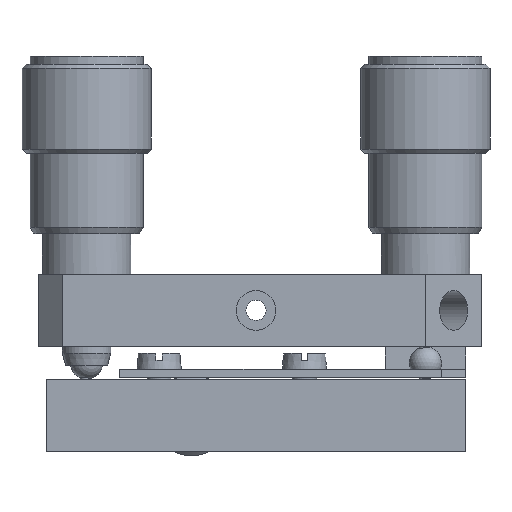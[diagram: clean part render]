
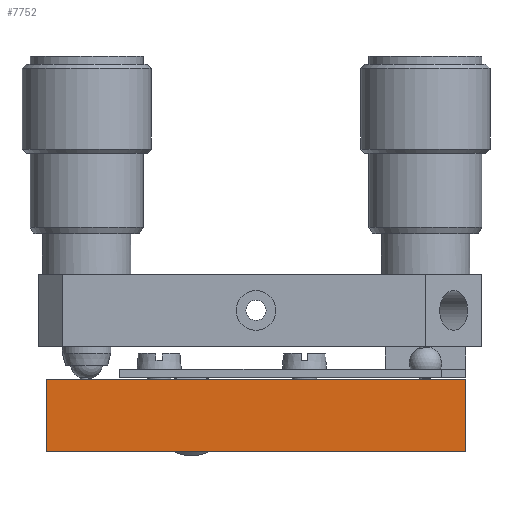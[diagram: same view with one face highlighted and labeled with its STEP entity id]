
A CAD part, left-side view. The second image highlights one B-rep face of the part: STEP entity #7752.
In plain terms, the highlighted planar face has unit normal (-1, 0, 0).
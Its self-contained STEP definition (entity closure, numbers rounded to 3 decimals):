
#216=CARTESIAN_POINT('',(-52.56,11.667,-28.253));
#217=VERTEX_POINT('',#216);
#224=CARTESIAN_POINT('',(-52.56,-40.333,-28.253));
#225=VERTEX_POINT('',#224);
#226=CARTESIAN_POINT('',(-52.56,-40.333,-28.253));
#227=DIRECTION('',(0.0,1.0,0.0));
#228=VECTOR('',#227,52.);
#229=LINE('',#226,#228);
#230=EDGE_CURVE('',#225,#217,#229,.T.);
#7300=CARTESIAN_POINT('',(-52.56,-40.333,-37.253));
#7301=VERTEX_POINT('',#7300);
#7308=CARTESIAN_POINT('',(-52.56,11.667,-37.253));
#7309=VERTEX_POINT('',#7308);
#7310=CARTESIAN_POINT('',(-52.56,11.667,-37.253));
#7311=DIRECTION('',(0.0,-1.0,0.0));
#7312=VECTOR('',#7311,52.);
#7313=LINE('',#7310,#7312);
#7314=EDGE_CURVE('',#7309,#7301,#7313,.T.);
#7731=CARTESIAN_POINT('',(-52.56,-40.333,-37.253));
#7732=DIRECTION('',(-1.0,0.0,0.0));
#7733=DIRECTION('',(0.0,0.0,-1.0));
#7734=AXIS2_PLACEMENT_3D('',#7731,#7732,#7733);
#7735=PLANE('',#7734);
#7736=ORIENTED_EDGE('',*,*,#230,.T.);
#7737=CARTESIAN_POINT('',(-52.56,11.667,-37.253));
#7738=DIRECTION('',(0.0,0.0,1.0));
#7739=VECTOR('',#7738,9.0);
#7740=LINE('',#7737,#7739);
#7741=EDGE_CURVE('',#7309,#217,#7740,.T.);
#7742=ORIENTED_EDGE('',*,*,#7741,.F.);
#7743=ORIENTED_EDGE('',*,*,#7314,.T.);
#7744=CARTESIAN_POINT('',(-52.56,-40.333,-37.253));
#7745=DIRECTION('',(0.0,0.0,1.0));
#7746=VECTOR('',#7745,9.0);
#7747=LINE('',#7744,#7746);
#7748=EDGE_CURVE('',#7301,#225,#7747,.T.);
#7749=ORIENTED_EDGE('',*,*,#7748,.T.);
#7750=EDGE_LOOP('',(#7736,#7742,#7743,#7749));
#7751=FACE_OUTER_BOUND('',#7750,.T.);
#7752=ADVANCED_FACE('',(#7751),#7735,.T.);
